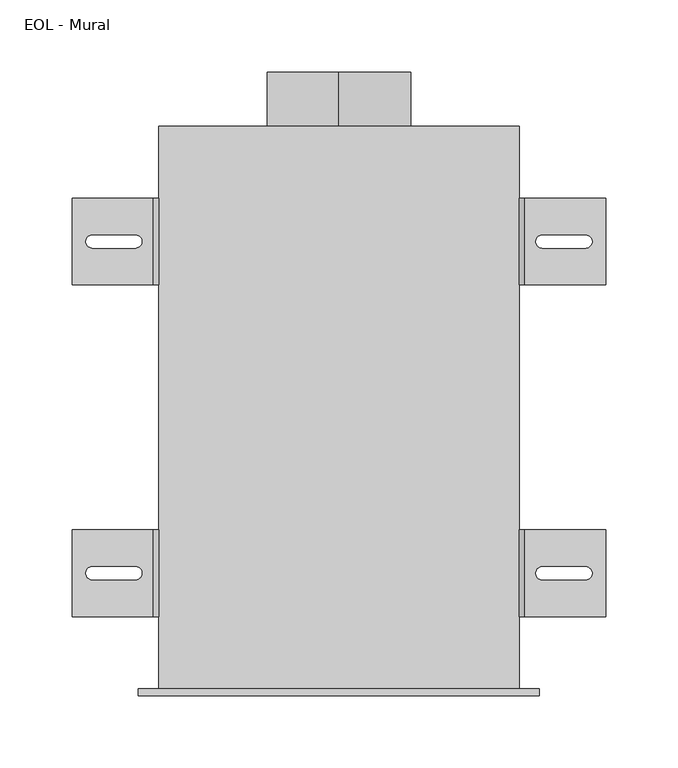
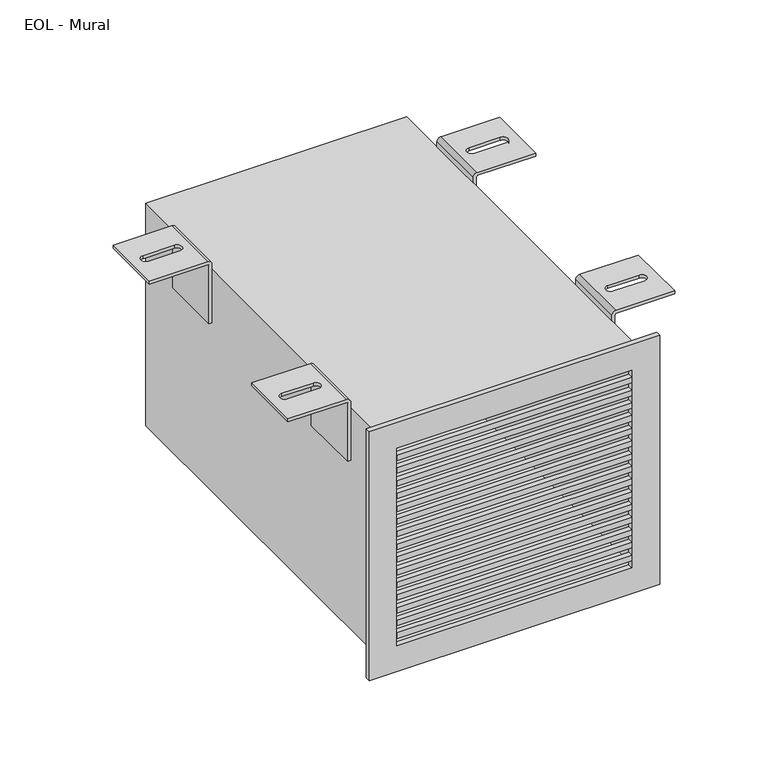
"""IFC4 building model written with IfcOpenShell, lengths in millimetres: air terminal geometry, EOL - Mural : EOL-M100-250x225-2."""

from ifc_helpers import new_model, si_unit, point, frame, origin, origin_2d, place, context, project, spatial, polyline, circle_curve, ellipse_curve, trimmed, segment, composite_curve, outline, extrude, source, transform, mapped, element, save
from ifc_brep_helpers import plane_surface, cylinder_surface, revolved_surface, extruded_surface, advanced_brep


def eol_mural_f0c05b58(model_context):
    return source(origin(), model_context, "Body", "SolidModel", [
        advanced_brep(
        [(129.0013366, 110.0, 121.5), (185.0, 110.0, 121.5), (185.0, 110.0, 118.5), (129.0, 110.0, 118.5), (128.0, 110.0, 117.5), (128.0, 110.0, 58.5), (125.0, 110.0, 58.5), (125.0, 110.0, 117.4986634), (129.0013366, 50.0, 121.5), (125.0, 50.0, 117.4986634), (125.0, 50.0, 58.5), (128.0, 50.0, 58.5), (128.0, 50.0, 117.5), (129.0, 50.0, 118.5), (185.0, 50.0, 118.5), (185.0, 50.0, 121.5), (171.0287952, 75.4804328, 121.5), (141.0287952, 75.4804328, 121.5), (141.0287952, 84.4804328, 121.5), (171.0287952, 84.4804328, 121.5), (141.0287952, 75.4804328, 118.5), (171.0287952, 75.4804328, 118.5), (171.0287952, 84.4804328, 118.5), (141.0287952, 84.4804328, 118.5)],
        [
            (0, 1),
            (1, 2),
            (2, 3),
            (3, 4, circle_curve(frame((129.0, 110.0, 117.5), z_axis=(0.0, -1.0, 0.0), x_axis=(-1.0000000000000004, 0.0, 0.0)), 1.0)),
            (4, 5),
            (5, 6),
            (6, 7),
            (7, 0, circle_curve(frame((129.0013366, 110.0, 117.4986634), z_axis=(0.0, 1.0, 0.0), x_axis=(-1.0000000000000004, 0.0, 0.0)), 4.0013366)),
            (8, 9, circle_curve(frame((129.0013366, 50.0, 117.4986634), z_axis=(0.0, -1.0, 0.0), x_axis=(-1.0000000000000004, 0.0, 0.0)), 4.0013366)),
            (9, 10),
            (10, 11),
            (11, 12),
            (12, 13, circle_curve(frame((129.0, 50.0, 117.5), z_axis=(0.0, 1.0, 0.0), x_axis=(-1.0000000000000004, 0.0, 0.0)), 1.0)),
            (13, 14),
            (14, 15),
            (15, 8),
            (0, 8),
            (15, 1),
            (16, 17),
            (17, 18, circle_curve(frame((141.0287952, 79.9804328, 121.5), z_axis=(0.0, 0.0, -1.0), x_axis=(0.0, -1.0, 0.0)), 4.5)),
            (18, 19),
            (19, 16, circle_curve(frame((171.0287952, 79.9804328, 121.5), z_axis=(0.0, 0.0, -1.0), x_axis=(0.0, -1.0, 0.0)), 4.5)),
            (14, 2),
            (13, 3),
            (20, 21),
            (21, 22, ellipse_curve(frame((171.0287952, 79.9804328, 118.5), z_axis=(0.0, 0.0, 1.0), x_axis=(0.0, -1.0, 0.0)), 4.5, 4.5)),
            (22, 23),
            (23, 20, ellipse_curve(frame((141.0287952, 79.9804328, 118.5), z_axis=(0.0, 0.0, 1.0), x_axis=(0.0, -1.0, 0.0)), 4.5, 4.5)),
            (12, 4),
            (11, 5),
            (10, 6),
            (9, 7),
            (16, 21),
            (20, 17),
            (19, 22),
            (18, 23),
        ],
        [
            plane_surface(frame((185.0, 110.0, 121.5), z_axis=(0.0, 1.0, 0.0), x_axis=(1.0, 0.0, 0.0))),
            plane_surface(frame((185.0, 50.0, 121.5), z_axis=(0.0, -1.0, 0.0), x_axis=(-1.0, 0.0, 0.0))),
            plane_surface(frame((129.0013366, 110.0, 121.5), z_axis=(0.0, 0.0, 1.0), x_axis=(0.0, -1.0, 0.0))),
            plane_surface(frame((185.0, 110.0, 121.5), z_axis=(1.0, 0.0, 0.0), x_axis=(0.0, -1.0, 0.0))),
            plane_surface(frame((185.0, 110.0, 118.5), z_axis=(0.0, 0.0, -1.0), x_axis=(0.0, -1.0, 0.0))),
            revolved_surface(polyline([(128.0, 50.0, 117.5), (128.0, 110.00000000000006, 117.5)]), (129.0, 50.0, 117.5), (0.0, -1.0000000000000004, 0.0)),
            plane_surface(frame((128.0, 110.0, 117.5), z_axis=(1.0, 0.0, 0.0), x_axis=(0.0, -1.0, 0.0))),
            plane_surface(frame((128.0, 110.0, 58.5), z_axis=(0.0, 0.0, -1.0), x_axis=(0.0, -1.0, 0.0))),
            plane_surface(frame((125.0, 110.0, 58.5), z_axis=(-1.0, 0.0, 0.0), x_axis=(0.0, -1.0, 0.0))),
            cylinder_surface(frame((129.0013366, 50.0, 117.4986634), z_axis=(0.0, 1.0000000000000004, 0.0), x_axis=(-1.0000000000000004, 0.0, 0.0)), 4.0013366),
            plane_surface(frame((141.0287952, 75.4804328, 121.5), z_axis=(0.0, 1.0, 0.0), x_axis=(0.0, 0.0, -1.0))),
            extruded_surface(trimmed(ellipse_curve(frame((171.0287952, 79.9804328, 118.5), z_axis=(0.0, 0.0, 1.0), x_axis=(0.0, -1.0, 0.0)), 4.5, 4.5), [point((171.0287952, 75.4804328, 118.5))], [point((171.0287952, 84.4804328, 118.5))], True, "CARTESIAN"), (0.0, 0.0, -3.0), 3.0),
            plane_surface(frame((171.0287952, 84.4804328, 121.5), z_axis=(0.0, -1.0, 0.0), x_axis=(0.0, 0.0, -1.0))),
            extruded_surface(trimmed(ellipse_curve(frame((141.0287952, 79.9804328, 118.5), z_axis=(0.0, 0.0, 1.0), x_axis=(0.0, -1.0, 0.0)), 4.5, 4.5), [point((141.0287952, 84.4804328, 118.5))], [point((141.0287952, 75.4804328, 118.5))], True, "CARTESIAN"), (0.0, 0.0, -3.0), 3.0),
        ],
        [
            (0, [[1, 2, 3, 4, 5, 6, 7, 8]]),
            (1, [[9, 10, 11, 12, 13, 14, 15, 16]]),
            (2, [[-1, 17, -16, 18], [19, 20, 21, 22]]),
            (3, [[-2, -18, -15, 23]]),
            (4, [[-3, -23, -14, 24], [25, 26, 27, 28]]),
            (5, [[-4, -24, -13, 29]]),
            (6, [[-5, -29, -12, 30]]),
            (7, [[-6, -30, -11, 31]]),
            (8, [[-7, -31, -10, 32]]),
            (9, [[-8, -32, -9, -17]]),
            (10, [[33, -25, 34, -19]]),
            (11, [[-33, -22, 35, -26]]),
            (12, [[-35, -21, 36, -27]]),
            (13, [[-34, -28, -36, -20]]),
        ],
    ),
        advanced_brep(
        [(129.0013366, 340.0, 121.5), (185.0, 340.0, 121.5), (185.0, 340.0, 118.5), (129.0, 340.0, 118.5), (128.0, 340.0, 117.5), (128.0, 340.0, 58.5), (125.0, 340.0, 58.5), (125.0, 340.0, 117.4986634), (129.0013366, 280.0, 121.5), (125.0, 280.0, 117.4986634), (125.0, 280.0, 58.5), (128.0, 280.0, 58.5), (128.0, 280.0, 117.5), (129.0, 280.0, 118.5), (185.0, 280.0, 118.5), (185.0, 280.0, 121.5), (171.0287952, 305.4804328, 121.5), (141.0287952, 305.4804328, 121.5), (141.0287952, 314.4804328, 121.5), (171.0287952, 314.4804328, 121.5), (141.0287952, 305.4804328, 118.5), (171.0287952, 305.4804328, 118.5), (171.0287952, 314.4804328, 118.5), (141.0287952, 314.4804328, 118.5)],
        [
            (0, 1),
            (1, 2),
            (2, 3),
            (3, 4, circle_curve(frame((129.0, 340.0, 117.5), z_axis=(0.0, -1.0, 0.0), x_axis=(-1.0, 0.0, 0.0)), 1.0)),
            (4, 5),
            (5, 6),
            (6, 7),
            (7, 0, circle_curve(frame((129.0013366, 340.0, 117.4986634), z_axis=(0.0, 1.0, 0.0), x_axis=(-1.0, 0.0, 0.0)), 4.0013366)),
            (8, 9, circle_curve(frame((129.0013366, 280.0, 117.4986634), z_axis=(0.0, -1.0, 0.0), x_axis=(-1.0, 0.0, 0.0)), 4.0013366)),
            (9, 10),
            (10, 11),
            (11, 12),
            (12, 13, circle_curve(frame((129.0, 280.0, 117.5), z_axis=(0.0, 1.0, 0.0), x_axis=(-1.0, 0.0, 0.0)), 1.0)),
            (13, 14),
            (14, 15),
            (15, 8),
            (0, 8),
            (15, 1),
            (16, 17),
            (17, 18, circle_curve(frame((141.0287952, 309.9804328, 121.5), z_axis=(0.0, 0.0, -1.0), x_axis=(0.0, -1.0, 0.0)), 4.5)),
            (18, 19),
            (19, 16, circle_curve(frame((171.0287952, 309.9804328, 121.5), z_axis=(0.0, 0.0, -1.0), x_axis=(0.0, -1.0, 0.0)), 4.5)),
            (14, 2),
            (13, 3),
            (20, 21),
            (21, 22, ellipse_curve(frame((171.0287952, 309.9804328, 118.5), z_axis=(0.0, 0.0, 1.0), x_axis=(0.0, -1.0, 0.0)), 4.5, 4.5)),
            (22, 23),
            (23, 20, ellipse_curve(frame((141.0287952, 309.9804328, 118.5), z_axis=(0.0, 0.0, 1.0), x_axis=(0.0, -1.0, 0.0)), 4.5, 4.5)),
            (12, 4),
            (11, 5),
            (10, 6),
            (9, 7),
            (16, 21),
            (20, 17),
            (19, 22),
            (18, 23),
        ],
        [
            plane_surface(frame((185.0, 340.0, 121.5), z_axis=(0.0, 1.0, 0.0), x_axis=(1.0, 0.0, 0.0))),
            plane_surface(frame((185.0, 280.0, 121.5), z_axis=(0.0, -1.0, 0.0), x_axis=(-1.0, 0.0, 0.0))),
            plane_surface(frame((129.0013366, 340.0, 121.5), z_axis=(0.0, 0.0, 1.0), x_axis=(0.0, -1.0, 0.0))),
            plane_surface(frame((185.0, 340.0, 121.5), z_axis=(1.0, 0.0, 0.0), x_axis=(0.0, -1.0, 0.0))),
            plane_surface(frame((185.0, 340.0, 118.5), z_axis=(0.0, 0.0, -1.0), x_axis=(0.0, -1.0, 0.0))),
            revolved_surface(polyline([(128.0, 280.0, 117.5), (128.0, 340.0, 117.5)]), (129.0, 280.0, 117.5), (0.0, -1.0, 0.0)),
            plane_surface(frame((128.0, 340.0, 117.5), z_axis=(1.0, 0.0, 0.0), x_axis=(0.0, -1.0, 0.0))),
            plane_surface(frame((128.0, 340.0, 58.5), z_axis=(0.0, 0.0, -1.0), x_axis=(0.0, -1.0, 0.0))),
            plane_surface(frame((125.0, 340.0, 58.5), z_axis=(-1.0, 0.0, 0.0), x_axis=(0.0, -1.0, 0.0))),
            cylinder_surface(frame((129.0013366, 280.0, 117.4986634), z_axis=(0.0, 1.0, 0.0), x_axis=(-1.0, 0.0, 0.0)), 4.0013366),
            plane_surface(frame((141.0287952, 305.4804328, 121.5), z_axis=(0.0, 1.0, 0.0), x_axis=(0.0, 0.0, -1.0))),
            extruded_surface(trimmed(ellipse_curve(frame((171.0287952, 309.9804328, 118.5), z_axis=(0.0, 0.0, 1.0), x_axis=(0.0, -1.0, 0.0)), 4.5, 4.5), [point((171.0287952, 305.4804328, 118.5))], [point((171.0287952, 314.4804328, 118.5))], True, "CARTESIAN"), (0.0, 0.0, -3.0), 3.0),
            plane_surface(frame((171.0287952, 314.4804328, 121.5), z_axis=(0.0, -1.0, 0.0), x_axis=(0.0, 0.0, -1.0))),
            extruded_surface(trimmed(ellipse_curve(frame((141.0287952, 309.9804328, 118.5), z_axis=(0.0, 0.0, 1.0), x_axis=(0.0, -1.0, 0.0)), 4.5, 4.5), [point((141.0287952, 314.4804328, 118.5))], [point((141.0287952, 305.4804328, 118.5))], True, "CARTESIAN"), (0.0, 0.0, -3.0), 3.0),
        ],
        [
            (0, [[1, 2, 3, 4, 5, 6, 7, 8]]),
            (1, [[9, 10, 11, 12, 13, 14, 15, 16]]),
            (2, [[-1, 17, -16, 18], [19, 20, 21, 22]]),
            (3, [[-2, -18, -15, 23]]),
            (4, [[-3, -23, -14, 24], [25, 26, 27, 28]]),
            (5, [[-4, -24, -13, 29]]),
            (6, [[-5, -29, -12, 30]]),
            (7, [[-6, -30, -11, 31]]),
            (8, [[-7, -31, -10, 32]]),
            (9, [[-8, -32, -9, -17]]),
            (10, [[33, -25, 34, -19]]),
            (11, [[-33, -22, 35, -26]]),
            (12, [[-35, -21, 36, -27]]),
            (13, [[-34, -28, -36, -20]]),
        ],
    ),
        advanced_brep(
        [(-129.0013366, 50.0, 121.5), (-185.0, 50.0, 121.5), (-185.0, 50.0, 118.5), (-129.0, 50.0, 118.5), (-128.0, 50.0, 117.5), (-128.0, 50.0, 58.5), (-125.0, 50.0, 58.5), (-125.0, 50.0, 117.4986634), (-129.0013366, 110.0, 121.5), (-125.0, 110.0, 117.4986634), (-125.0, 110.0, 58.5), (-128.0, 110.0, 58.5), (-128.0, 110.0, 117.5), (-129.0, 110.0, 118.5), (-185.0, 110.0, 118.5), (-185.0, 110.0, 121.5), (-171.0287952, 84.5195672, 121.5), (-141.0287952, 84.5195672, 121.5), (-141.0287952, 75.5195672, 121.5), (-171.0287952, 75.5195672, 121.5), (-141.0287952, 84.5195672, 118.5), (-171.0287952, 84.5195672, 118.5), (-171.0287952, 75.5195672, 118.5), (-141.0287952, 75.5195672, 118.5)],
        [
            (0, 1),
            (1, 2),
            (2, 3),
            (3, 4, circle_curve(frame((-129.0, 50.0, 117.5), z_axis=(0.0, 1.0, 0.0), x_axis=(1.0, 0.0, 0.0)), 1.0)),
            (4, 5),
            (5, 6),
            (6, 7),
            (7, 0, circle_curve(frame((-129.0013366, 50.0, 117.4986634), z_axis=(0.0, -1.0, 0.0), x_axis=(1.0, 0.0, 0.0)), 4.0013366)),
            (8, 9, circle_curve(frame((-129.0013366, 110.0, 117.4986634), z_axis=(0.0, 1.0, 0.0), x_axis=(1.0, 0.0, 0.0)), 4.0013366)),
            (9, 10),
            (10, 11),
            (11, 12),
            (12, 13, circle_curve(frame((-129.0, 110.0, 117.5), z_axis=(0.0, -1.0, 0.0), x_axis=(1.0, 0.0, 0.0)), 1.0)),
            (13, 14),
            (14, 15),
            (15, 8),
            (0, 8),
            (15, 1),
            (16, 17),
            (17, 18, circle_curve(frame((-141.0287952, 80.0195672, 121.5), z_axis=(0.0, 0.0, -1.0), x_axis=(0.0, 1.0, 0.0)), 4.5)),
            (18, 19),
            (19, 16, circle_curve(frame((-171.0287952, 80.0195672, 121.5), z_axis=(0.0, 0.0, -1.0), x_axis=(0.0, 1.0, 0.0)), 4.5)),
            (14, 2),
            (13, 3),
            (20, 21),
            (21, 22, ellipse_curve(frame((-171.0287952, 80.0195672, 118.5), z_axis=(0.0, 0.0, 1.0), x_axis=(0.0, 1.0, 0.0)), 4.5, 4.5)),
            (22, 23),
            (23, 20, ellipse_curve(frame((-141.0287952, 80.0195672, 118.5), z_axis=(0.0, 0.0, 1.0), x_axis=(0.0, 1.0, 0.0)), 4.5, 4.5)),
            (12, 4),
            (11, 5),
            (10, 6),
            (9, 7),
            (16, 21),
            (20, 17),
            (19, 22),
            (18, 23),
        ],
        [
            plane_surface(frame((-185.0, 50.0, 121.5), z_axis=(0.0, -1.0, 0.0), x_axis=(-1.0, 0.0, 0.0))),
            plane_surface(frame((-185.0, 110.0, 121.5), z_axis=(0.0, 1.0, 0.0), x_axis=(1.0, 0.0, 0.0))),
            plane_surface(frame((-129.0013366, 50.0, 121.5), z_axis=(0.0, 0.0, 1.0), x_axis=(0.0, 1.0, 0.0))),
            plane_surface(frame((-185.0, 50.0, 121.5), z_axis=(-1.0, 0.0, 0.0), x_axis=(0.0, 1.0, 0.0))),
            plane_surface(frame((-185.0, 50.0, 118.5), z_axis=(0.0, 0.0, -1.0), x_axis=(0.0, 1.0, 0.0))),
            revolved_surface(polyline([(-128.0, 110.0, 117.5), (-128.0, 50.0, 117.5)]), (-129.0, 110.0, 117.5), (0.0, 1.0, 0.0)),
            plane_surface(frame((-128.0, 50.0, 117.5), z_axis=(-1.0, 0.0, 0.0), x_axis=(0.0, 1.0, 0.0))),
            plane_surface(frame((-128.0, 50.0, 58.5), z_axis=(0.0, 0.0, -1.0), x_axis=(0.0, 1.0, 0.0))),
            plane_surface(frame((-125.0, 50.0, 58.5), z_axis=(1.0, 0.0, 0.0), x_axis=(0.0, 1.0, 0.0))),
            cylinder_surface(frame((-129.0013366, 110.0, 117.4986634), z_axis=(0.0, -1.0, 0.0), x_axis=(1.0, 0.0, 0.0)), 4.0013366),
            plane_surface(frame((-141.0287952, 84.5195672, 121.5), z_axis=(0.0, -1.0, 0.0), x_axis=(0.0, 0.0, -1.0))),
            extruded_surface(trimmed(ellipse_curve(frame((-171.0287952, 80.0195672, 118.5), z_axis=(0.0, 0.0, 1.0), x_axis=(0.0, 1.0, 0.0)), 4.5, 4.5), [point((-171.0287952, 84.5195672, 118.5))], [point((-171.0287952, 75.5195672, 118.5))], True, "CARTESIAN"), (0.0, 0.0, -3.0), 3.0),
            plane_surface(frame((-171.0287952, 75.5195672, 121.5), z_axis=(0.0, 1.0, 0.0), x_axis=(0.0, 0.0, -1.0))),
            extruded_surface(trimmed(ellipse_curve(frame((-141.0287952, 80.0195672, 118.5), z_axis=(0.0, 0.0, 1.0), x_axis=(0.0, 1.0, 0.0)), 4.5, 4.5), [point((-141.0287952, 75.5195672, 118.5))], [point((-141.0287952, 84.5195672, 118.5))], True, "CARTESIAN"), (0.0, 0.0, -3.0), 3.0),
        ],
        [
            (0, [[1, 2, 3, 4, 5, 6, 7, 8]]),
            (1, [[9, 10, 11, 12, 13, 14, 15, 16]]),
            (2, [[-1, 17, -16, 18], [19, 20, 21, 22]]),
            (3, [[-2, -18, -15, 23]]),
            (4, [[-3, -23, -14, 24], [25, 26, 27, 28]]),
            (5, [[-4, -24, -13, 29]]),
            (6, [[-5, -29, -12, 30]]),
            (7, [[-6, -30, -11, 31]]),
            (8, [[-7, -31, -10, 32]]),
            (9, [[-8, -32, -9, -17]]),
            (10, [[33, -25, 34, -19]]),
            (11, [[-33, -22, 35, -26]]),
            (12, [[-35, -21, 36, -27]]),
            (13, [[-34, -28, -36, -20]]),
        ],
    ),
        advanced_brep(
        [(-129.0013366, 280.0, 121.5), (-185.0, 280.0, 121.5), (-185.0, 280.0, 118.5), (-129.0, 280.0, 118.5), (-128.0, 280.0, 117.5), (-128.0, 280.0, 58.5), (-125.0, 280.0, 58.5), (-125.0, 280.0, 117.4986634), (-129.0013366, 340.0, 121.5), (-125.0, 340.0, 117.4986634), (-125.0, 340.0, 58.5), (-128.0, 340.0, 58.5), (-128.0, 340.0, 117.5), (-129.0, 340.0, 118.5), (-185.0, 340.0, 118.5), (-185.0, 340.0, 121.5), (-171.0287952, 314.5195672, 121.5), (-141.0287952, 314.5195672, 121.5), (-141.0287952, 305.5195672, 121.5), (-171.0287952, 305.5195672, 121.5), (-141.0287952, 314.5195672, 118.5), (-171.0287952, 314.5195672, 118.5), (-171.0287952, 305.5195672, 118.5), (-141.0287952, 305.5195672, 118.5)],
        [
            (0, 1),
            (1, 2),
            (2, 3),
            (3, 4, circle_curve(frame((-129.0, 280.0, 117.5), z_axis=(0.0, 1.0, 0.0), x_axis=(1.0, 0.0, 0.0)), 1.0)),
            (4, 5),
            (5, 6),
            (6, 7),
            (7, 0, circle_curve(frame((-129.0013366, 280.0, 117.4986634), z_axis=(0.0, -1.0, 0.0), x_axis=(1.0, 0.0, 0.0)), 4.0013366)),
            (8, 9, circle_curve(frame((-129.0013366, 340.0, 117.4986634), z_axis=(0.0, 1.0, 0.0), x_axis=(1.0, 0.0, 0.0)), 4.0013366)),
            (9, 10),
            (10, 11),
            (11, 12),
            (12, 13, circle_curve(frame((-129.0, 340.0, 117.5), z_axis=(0.0, -1.0, 0.0), x_axis=(1.0, 0.0, 0.0)), 1.0)),
            (13, 14),
            (14, 15),
            (15, 8),
            (0, 8),
            (15, 1),
            (16, 17),
            (17, 18, circle_curve(frame((-141.0287952, 310.0195672, 121.5), z_axis=(0.0, 0.0, -1.0), x_axis=(0.0, 1.0, 0.0)), 4.5)),
            (18, 19),
            (19, 16, circle_curve(frame((-171.0287952, 310.0195672, 121.5), z_axis=(0.0, 0.0, -1.0), x_axis=(0.0, 1.0, 0.0)), 4.5)),
            (14, 2),
            (13, 3),
            (20, 21),
            (21, 22, ellipse_curve(frame((-171.0287952, 310.0195672, 118.5), z_axis=(0.0, 0.0, 1.0), x_axis=(0.0, 1.0, 0.0)), 4.5, 4.5)),
            (22, 23),
            (23, 20, ellipse_curve(frame((-141.0287952, 310.0195672, 118.5), z_axis=(0.0, 0.0, 1.0), x_axis=(0.0, 1.0, 0.0)), 4.5, 4.5)),
            (12, 4),
            (11, 5),
            (10, 6),
            (9, 7),
            (16, 21),
            (20, 17),
            (19, 22),
            (18, 23),
        ],
        [
            plane_surface(frame((-185.0, 280.0, 121.5), z_axis=(0.0, -1.0, 0.0), x_axis=(-1.0, 0.0, 0.0))),
            plane_surface(frame((-185.0, 340.0, 121.5), z_axis=(0.0, 1.0, 0.0), x_axis=(1.0, 0.0, 0.0))),
            plane_surface(frame((-129.0013366, 280.0, 121.5), z_axis=(0.0, 0.0, 1.0), x_axis=(0.0, 1.0, 0.0))),
            plane_surface(frame((-185.0, 280.0, 121.5), z_axis=(-1.0, 0.0, 0.0), x_axis=(0.0, 1.0, 0.0))),
            plane_surface(frame((-185.0, 280.0, 118.5), z_axis=(0.0, 0.0, -1.0), x_axis=(0.0, 1.0, 0.0))),
            revolved_surface(polyline([(-128.0, 340.0, 117.5), (-128.0, 280.0, 117.5)]), (-129.0, 340.0, 117.5), (0.0, 1.0, 0.0)),
            plane_surface(frame((-128.0, 280.0, 117.5), z_axis=(-1.0, 0.0, 0.0), x_axis=(0.0, 1.0, 0.0))),
            plane_surface(frame((-128.0, 280.0, 58.5), z_axis=(0.0, 0.0, -1.0), x_axis=(0.0, 1.0, 0.0))),
            plane_surface(frame((-125.0, 280.0, 58.5), z_axis=(1.0, 0.0, 0.0), x_axis=(0.0, 1.0, 0.0))),
            cylinder_surface(frame((-129.0013366, 340.0, 117.4986634), z_axis=(0.0, -1.0, 0.0), x_axis=(1.0, 0.0, 0.0)), 4.0013366),
            plane_surface(frame((-141.0287952, 314.5195672, 121.5), z_axis=(0.0, -1.0, 0.0), x_axis=(0.0, 0.0, -1.0))),
            extruded_surface(trimmed(ellipse_curve(frame((-171.0287952, 310.0195672, 118.5), z_axis=(0.0, 0.0, 1.0), x_axis=(0.0, 1.0, 0.0)), 4.5, 4.5), [point((-171.0287952, 314.5195672, 118.5))], [point((-171.0287952, 305.5195672, 118.5))], True, "CARTESIAN"), (0.0, 0.0, -3.0), 3.0),
            plane_surface(frame((-171.0287952, 305.5195672, 121.5), z_axis=(0.0, 1.0, 0.0), x_axis=(0.0, 0.0, -1.0))),
            extruded_surface(trimmed(ellipse_curve(frame((-141.0287952, 310.0195672, 118.5), z_axis=(0.0, 0.0, 1.0), x_axis=(0.0, 1.0, 0.0)), 4.5, 4.5), [point((-141.0287952, 305.5195672, 118.5))], [point((-141.0287952, 314.5195672, 118.5))], True, "CARTESIAN"), (0.0, 0.0, -3.0), 3.0),
        ],
        [
            (0, [[1, 2, 3, 4, 5, 6, 7, 8]]),
            (1, [[9, 10, 11, 12, 13, 14, 15, 16]]),
            (2, [[-1, 17, -16, 18], [19, 20, 21, 22]]),
            (3, [[-2, -18, -15, 23]]),
            (4, [[-3, -23, -14, 24], [25, 26, 27, 28]]),
            (5, [[-4, -24, -13, 29]]),
            (6, [[-5, -29, -12, 30]]),
            (7, [[-6, -30, -11, 31]]),
            (8, [[-7, -31, -10, 32]]),
            (9, [[-8, -32, -9, -17]]),
            (10, [[33, -25, 34, -19]]),
            (11, [[-33, -22, 35, -26]]),
            (12, [[-35, -21, 36, -27]]),
            (13, [[-34, -28, -36, -20]]),
        ],
    ),
        extrude(outline(composite_curve([segment(trimmed(circle_curve(origin_2d(), 50.0), [point((-50.0, 0.0))], [point((50.0, 0.0))], False, "CARTESIAN"), True, "CONTINUOUS"), segment(trimmed(circle_curve(origin_2d(), 50.0), [point((50.0, 0.0))], [point((-50.0, 0.0))], False, "CARTESIAN"), True, "CONTINUOUS")], self_intersect=False), holes=[composite_curve([segment(trimmed(circle_curve(origin_2d(), 49.0), [point((0.0, 49.0))], [point((0.0, -49.0))], True, "CARTESIAN"), True, "CONTINUOUS"), segment(trimmed(circle_curve(origin_2d(), 49.0), [point((0.0, -49.0))], [point((0.0, 49.0))], True, "CARTESIAN"), True, "CONTINUOUS")], self_intersect=False)]), frame((0.0, 390.0, 0.0), z_axis=(0.0, 1.0, 0.0), x_axis=(0.0, 0.0, 1.0)), (0.0, 0.0, 1.0), 37.5),
        extrude(outline(polyline([(112.5, 0.0), (112.5, -5.0), (-112.5, -5.0), (-112.5, 0.0), (112.5, 0.0)])), frame((0.0, 0.0, 87.15), z_axis=(0.0, 0.0, 1.0), x_axis=(1.0, 0.0, 0.0)), (0.0, 0.0, 1.0), 5.6),
        extrude(outline(polyline([(112.5, 0.0), (112.5, -5.0), (-112.5, -5.0), (-112.5, 0.0), (112.5, 0.0)])), frame((0.0, 0.0, 74.3), z_axis=(0.0, 0.0, 1.0), x_axis=(1.0, 0.0, 0.0)), (0.0, 0.0, 1.0), 5.6),
        extrude(outline(polyline([(112.5, 0.0), (112.5, -5.0), (-112.5, -5.0), (-112.5, 0.0), (112.5, 0.0)])), frame((0.0, 0.0, 61.45), z_axis=(0.0, 0.0, 1.0), x_axis=(1.0, 0.0, 0.0)), (0.0, 0.0, 1.0), 5.6),
        extrude(outline(polyline([(112.5, 0.0), (112.5, -5.0), (-112.5, -5.0), (-112.5, 0.0), (112.5, 0.0)])), frame((0.0, 0.0, 48.6), z_axis=(0.0, 0.0, 1.0), x_axis=(1.0, 0.0, 0.0)), (0.0, 0.0, 1.0), 5.6),
        extrude(outline(polyline([(112.5, 0.0), (112.5, -5.0), (-112.5, -5.0), (-112.5, 0.0), (112.5, 0.0)])), frame((0.0, 0.0, 35.75), z_axis=(0.0, 0.0, 1.0), x_axis=(1.0, 0.0, 0.0)), (0.0, 0.0, 1.0), 5.6),
        extrude(outline(polyline([(112.5, 0.0), (112.5, -5.0), (-112.5, -5.0), (-112.5, 0.0), (112.5, 0.0)])), frame((0.0, 0.0, 22.9), z_axis=(0.0, 0.0, 1.0), x_axis=(1.0, 0.0, 0.0)), (0.0, 0.0, 1.0), 5.6),
        extrude(outline(polyline([(112.5, 0.0), (112.5, -5.0), (-112.5, -5.0), (-112.5, 0.0), (112.5, 0.0)])), frame((0.0, 0.0, 10.05), z_axis=(0.0, 0.0, 1.0), x_axis=(1.0, 0.0, 0.0)), (0.0, 0.0, 1.0), 5.6),
        extrude(outline(polyline([(112.5, 0.0), (112.5, -5.0), (-112.5, -5.0), (-112.5, 0.0), (112.5, 0.0)])), frame((0.0, 0.0, -2.8), z_axis=(0.0, 0.0, 1.0), x_axis=(1.0, 0.0, 0.0)), (0.0, 0.0, 1.0), 5.6),
        extrude(outline(polyline([(112.5, 0.0), (112.5, -5.0), (-112.5, -5.0), (-112.5, 0.0), (112.5, 0.0)])), frame((0.0, 0.0, -15.65), z_axis=(0.0, 0.0, 1.0), x_axis=(1.0, 0.0, 0.0)), (0.0, 0.0, 1.0), 5.6),
        extrude(outline(polyline([(112.5, 0.0), (112.5, -5.0), (-112.5, -5.0), (-112.5, 0.0), (112.5, 0.0)])), frame((0.0, 0.0, -28.5), z_axis=(0.0, 0.0, 1.0), x_axis=(1.0, 0.0, 0.0)), (0.0, 0.0, 1.0), 5.6),
        extrude(outline(polyline([(112.5, 0.0), (112.5, -5.0), (-112.5, -5.0), (-112.5, 0.0), (112.5, 0.0)])), frame((0.0, 0.0, -41.35), z_axis=(0.0, 0.0, 1.0), x_axis=(1.0, 0.0, 0.0)), (0.0, 0.0, 1.0), 5.6),
        extrude(outline(polyline([(112.5, 0.0), (112.5, -5.0), (-112.5, -5.0), (-112.5, 0.0), (112.5, 0.0)])), frame((0.0, 0.0, -54.2), z_axis=(0.0, 0.0, 1.0), x_axis=(1.0, 0.0, 0.0)), (0.0, 0.0, 1.0), 5.6),
        extrude(outline(polyline([(112.5, 0.0), (112.5, -5.0), (-112.5, -5.0), (-112.5, 0.0), (112.5, 0.0)])), frame((0.0, 0.0, -67.05), z_axis=(0.0, 0.0, 1.0), x_axis=(1.0, 0.0, 0.0)), (0.0, 0.0, 1.0), 5.6),
        extrude(outline(polyline([(112.5, 0.0), (112.5, -5.0), (-112.5, -5.0), (-112.5, 0.0), (112.5, 0.0)])), frame((0.0, 0.0, -79.9), z_axis=(0.0, 0.0, 1.0), x_axis=(1.0, 0.0, 0.0)), (0.0, 0.0, 1.0), 5.6),
        extrude(outline(polyline([(112.5, 0.0), (112.5, -5.0), (-112.5, -5.0), (-112.5, 0.0), (112.5, 0.0)])), frame((0.0, 0.0, -92.75), z_axis=(0.0, 0.0, 1.0), x_axis=(1.0, 0.0, 0.0)), (0.0, 0.0, 1.0), 5.6),
        extrude(outline(polyline([(126.0, 139.0), (126.0, -139.0), (-126.0, -139.0), (-126.0, 139.0), (126.0, 139.0)]), holes=[polyline([(100.0, 112.5), (-100.0, 112.5), (-100.0, -112.5), (100.0, -112.5), (100.0, 112.5)])]), frame((0.0, -5.0, 0.0), z_axis=(0.0, 1.0, 0.0), x_axis=(0.0, 0.0, 1.0)), (0.0, 0.0, 1.0), 5.0),
        advanced_brep(
        [(125.0, 390.0, 112.5), (-125.0, 390.0, 112.5), (-125.0, 0.0, 112.5), (125.0, 0.0, 112.5), (125.0, 390.0, -112.5), (125.0, 0.0, -112.5), (-125.0, 0.0, -112.5), (-125.0, 390.0, -112.5), (-49.0, 390.0, 0.0), (49.0, 390.0, 0.0), (-120.0, 0.0, 107.5), (120.0, 0.0, 107.5), (120.0, 0.0, -107.5), (-120.0, 0.0, -107.5), (120.0, 385.0, 107.5), (-120.0, 385.0, 107.5), (120.0, 385.0, -107.5), (-120.0, 385.0, -107.5), (49.0, 385.0, 0.0), (-49.0, 385.0, 0.0)],
        [
            (0, 1),
            (1, 2),
            (2, 3),
            (3, 0),
            (4, 5),
            (5, 6),
            (6, 7),
            (7, 4),
            (0, 4),
            (7, 1),
            (8, 9, circle_curve(frame((0.0, 390.0, 0.0), z_axis=(0.0, -1.0, 0.0), x_axis=(1.0, 0.0, 0.0)), 49.0)),
            (9, 8, circle_curve(frame((0.0, 390.0, 0.0), z_axis=(0.0, -1.0, 0.0), x_axis=(1.0, 0.0, 0.0)), 49.0)),
            (6, 2),
            (5, 3),
            (10, 11),
            (11, 12),
            (12, 13),
            (13, 10),
            (14, 11),
            (10, 15),
            (15, 14),
            (16, 17),
            (17, 13),
            (12, 16),
            (15, 17),
            (16, 14),
            (18, 19, circle_curve(frame((0.0, 385.0, 0.0), z_axis=(0.0, 1.0, 0.0), x_axis=(1.0, 0.0, 0.0)), 49.0)),
            (19, 18, circle_curve(frame((0.0, 385.0, 0.0), z_axis=(0.0, 1.0, 0.0), x_axis=(1.0, 0.0, 0.0)), 49.0)),
            (8, 19),
            (18, 9),
        ],
        [
            plane_surface(frame((-125.0, 390.0, 112.5), z_axis=(0.0, 0.0, 1.0), x_axis=(-1.0, 0.0, 0.0))),
            plane_surface(frame((-125.0, 390.0, -112.5), z_axis=(0.0, 0.0, -1.0), x_axis=(1.0, 0.0, 0.0))),
            plane_surface(frame((125.0, 390.0, 112.5), z_axis=(0.0, 1.0, 0.0), x_axis=(0.0, 0.0, -1.0))),
            plane_surface(frame((-125.0, 390.0, 112.5), z_axis=(-1.0, 0.0, 0.0), x_axis=(0.0, 0.0, -1.0))),
            plane_surface(frame((-125.0, 0.0, 112.5), z_axis=(0.0, -1.0, 0.0), x_axis=(0.0, 0.0, -1.0))),
            plane_surface(frame((125.0, 0.0, 112.5), z_axis=(1.0, 0.0, 0.0), x_axis=(0.0, 0.0, -1.0))),
            plane_surface(frame((-120.0, 385.0, 107.5), z_axis=(0.0, 0.0, -1.0), x_axis=(-1.0, 0.0, 0.0))),
            plane_surface(frame((-120.0, 385.0, -107.5), z_axis=(0.0, 0.0, 1.0), x_axis=(1.0, 0.0, 0.0))),
            plane_surface(frame((120.0, 385.0, 107.5), z_axis=(0.0, -1.0, 0.0), x_axis=(0.0, 0.0, -1.0))),
            plane_surface(frame((-120.0, 385.0, 107.5), z_axis=(1.0, 0.0, 0.0), x_axis=(0.0, 0.0, -1.0))),
            plane_surface(frame((120.0, 0.0, 107.5), z_axis=(-1.0, 0.0, 0.0), x_axis=(0.0, 0.0, -1.0))),
            revolved_surface(polyline([(49.0, 385.0, 0.0), (49.0, 390.0, 0.0)]), (0.0, 427.5, 0.0), (0.0, -1.0, 0.0)),
        ],
        [
            (0, [[1, 2, 3, 4]]),
            (1, [[5, 6, 7, 8]]),
            (2, [[-1, 9, -8, 10], [11, 12]]),
            (3, [[-2, -10, -7, 13]]),
            (4, [[-3, -13, -6, 14], [15, 16, 17, 18]]),
            (5, [[-4, -14, -5, -9]]),
            (6, [[19, -15, 20, 21]]),
            (7, [[22, 23, -17, 24]]),
            (8, [[-21, 25, -22, 26], [27, 28]]),
            (9, [[-20, -18, -23, -25]]),
            (10, [[-19, -26, -24, -16]]),
            (11, [[29, -27, 30, -11]]),
            (11, [[-29, -12, -30, -28]]),
        ],
    ),
    ])


if __name__ == "__main__":
    model = new_model("IFC4")
    model_context = context("Model", 3, world=origin())
    ifc_project = project(units=[si_unit("LENGTHUNIT", "METRE", prefix="MILLI")], contexts=[model_context])
    site = spatial("IfcSite", under=ifc_project)
    building = spatial("IfcBuilding", under=site)
    placement = place(None, origin())
    eol_mural_shape = eol_mural_f0c05b58(model_context)
    element("IfcAirTerminal", 1, ObjectType="EOL - Mural : EOL-M100-250x225-2", at=placement, inside=building, context=model_context, shape_type="MappedRepresentation", body=[
        mapped(eol_mural_shape, transform((0.0, 0.0, 0.0), x_axis=(1.0, 0.0, 0.0), y_axis=(0.0, 1.0, 0.0), z_axis=(0.0, 0.0, 1.0))),
    ])
    save(model, "model.ifc")
